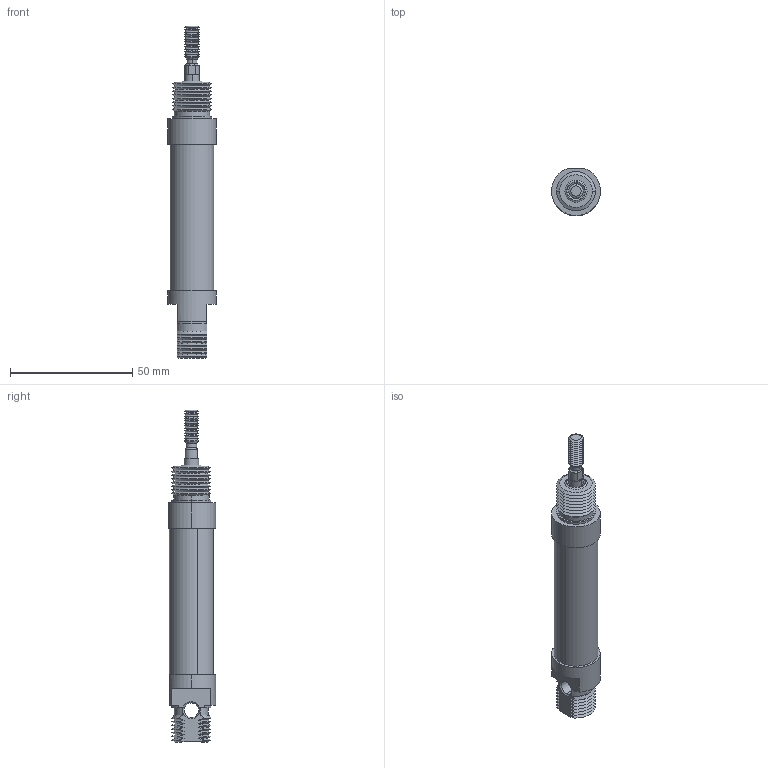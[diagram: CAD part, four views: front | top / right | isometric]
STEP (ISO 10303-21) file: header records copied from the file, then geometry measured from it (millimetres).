
FILE_DESCRIPTION (( 'STEP AP203' ), '1' );
FILE_NAME ('DSA16.0025.STEP', '2005-11-24T11:01:29', ( 'Vesta Automation srl' ), ( 'Vesta Automation srl' ), 'SwSTEP 2.0', 'SolidWorks 2005187', '' );
FILE_SCHEMA (( 'CONFIG_CONTROL_DESIGN' ));
Length unit declared in the file: millimetre
Products named in the file (5): FRONT END CAP-DSA16; BARREL-DSA16_STROKE 0025; REAR END CAP-DSA16; DSA16.0025; PISTON ROD-DSA16_STROKE 0025
Assembly tree (4 placements, depth 2):
  DSA16.0025
    PISTON ROD-DSA16_STROKE 0025
    BARREL-DSA16_STROKE 0025
    REAR END CAP-DSA16
    FRONT END CAP-DSA16
Bounding box: 20 x 19.5 x 136 mm (x, y, z)
Volume: 21372.8 mm3; surface area: 16493.8 mm2
Topology: 4 solids, 4 shells, 304 faces, 695 edges, 419 vertices
Faces by surface type: cone 128, cylinder 96, plane 74, torus 4, bspline 2
Entity records: 10037 total; most frequent: CARTESIAN_POINT 2533, DIRECTION 1582, ORIENTED_EDGE 1386, EDGE_CURVE 693, AXIS2_PLACEMENT_3D 646, VERTEX_POINT 419, CIRCLE 337, EDGE_LOOP 336
